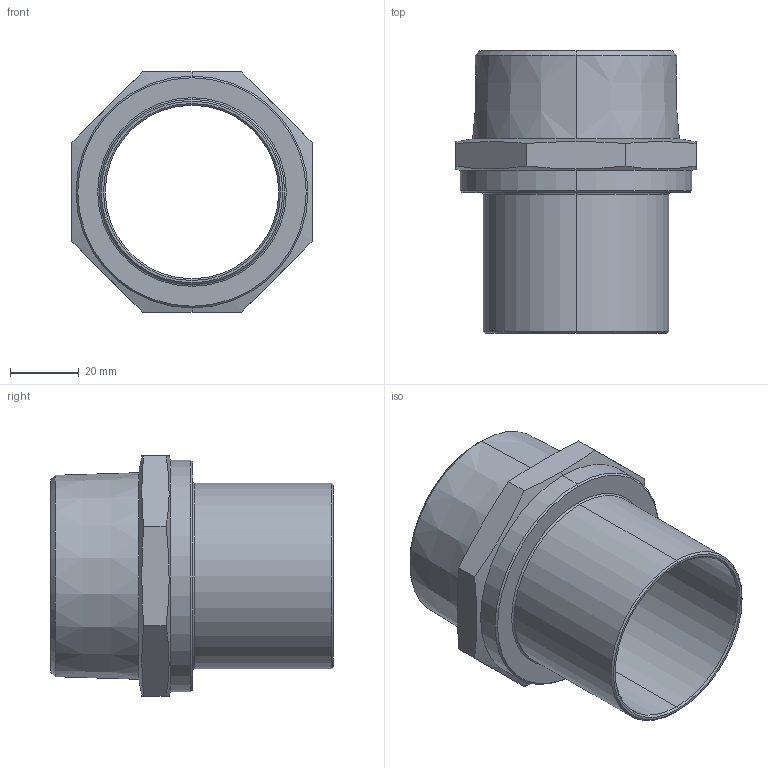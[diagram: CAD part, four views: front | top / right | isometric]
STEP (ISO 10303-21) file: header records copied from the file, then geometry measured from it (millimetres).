
FILE_DESCRIPTION (( 'STEP AP203' ), '1' );
FILE_NAME ('SP4280G Ø54 2.STEP', '2017-04-26T09:10:59', ( '' ), ( '' ), 'SwSTEP 2.0', 'SolidWorks 2016', '' );
FILE_SCHEMA (( 'CONFIG_CONTROL_DESIGN' ));
Length unit declared in the file: millimetre
Products named in the file (1): SP4280G ﾘ54 2
Bounding box: 70 x 82.37 x 70 mm (x, y, z)
Volume: 58248 mm3; surface area: 31590.5 mm2
Topology: 1 solids, 1 shells, 39 faces, 88 edges, 52 vertices
Faces by surface type: cone 18, plane 11, cylinder 8, torus 2
Entity records: 1233 total; most frequent: CARTESIAN_POINT 296, DIRECTION 182, ORIENTED_EDGE 176, EDGE_CURVE 88, AXIS2_PLACEMENT_3D 74, VERTEX_POINT 52, EDGE_LOOP 42, FACE_OUTER_BOUND 39
